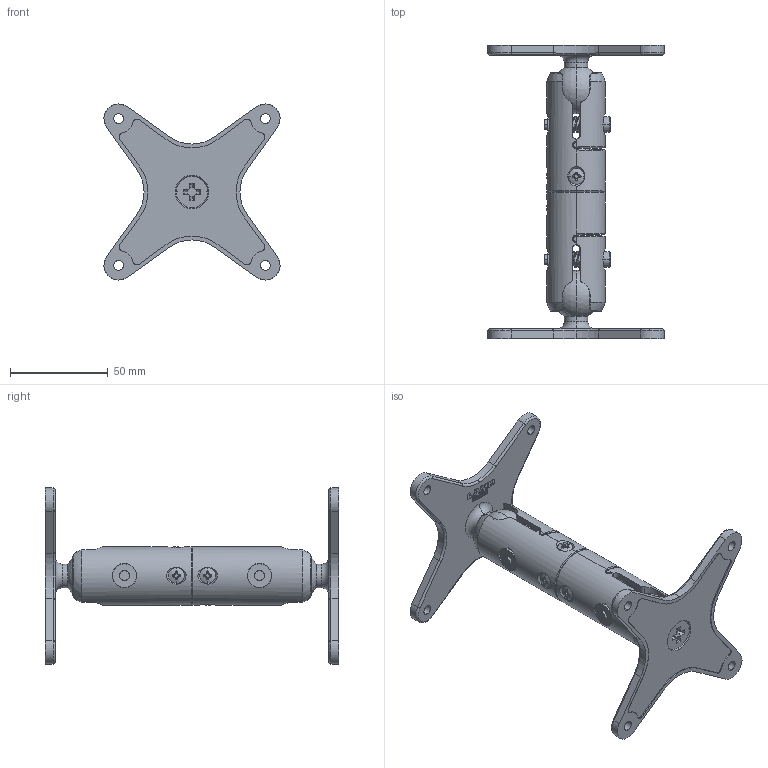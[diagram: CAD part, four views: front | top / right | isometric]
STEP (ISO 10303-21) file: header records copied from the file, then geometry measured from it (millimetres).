
FILE_DESCRIPTION (( 'STEP AP203' ), '1' );
FILE_NAME ('KA-150__0.step', '2013-04-22T22:56:24', ( ' ' ), ( '' ), 'SwSTEP 2.0', 'SolidWorks 2011', '' );
FILE_SCHEMA (( 'CONFIG_CONTROL_DESIGN' ));
Length unit declared in the file: millimetre
Products named in the file (14): KA-150__0; 十字穴付き丸皿小ねじ_M4x8; 十字穴付き皿小ねじ_M8x20; 六角穴付きボルト_M5x30; 平座金_5; SC210-02064_KA-150_連結パイプ; SC210-02066_KA-150_圧縮バネ_取付時; SC210-02070_KA-150_ゴム球; SC210-02063_KA-150_ゴム球（ゴム球）; SC210-02069_KA-150_ナット（ゴム球）; SC210-02072_KA-150_アウトサートナット; SC210-02071_KA-150_クランプ; SC210-02068_KA-150_ホルダー; SC210-02065_KA-150_十字ベース
Assembly tree (25 placements, depth 3):
  KA-150__0
    十字穴付き丸皿小ねじ_M4x8  x4
    SC210-02072_KA-150_アウトサートナット  x2
    SC210-02065_KA-150_十字ベース  x2
    十字穴付き皿小ねじ_M8x20  x2
    SC210-02070_KA-150_ゴム球  x2
      SC210-02063_KA-150_ゴム球（ゴム球）
      SC210-02069_KA-150_ナット（ゴム球）
    SC210-02071_KA-150_クランプ  x2
    六角穴付きボルト_M5x30  x2
    SC210-02068_KA-150_ホルダー  x2
    平座金_5  x2
    SC210-02064_KA-150_連結パイプ
    SC210-02066_KA-150_圧縮バネ_取付時  x2
Bounding box: 89.99 x 150 x 90 mm (x, y, z)
Volume: 105653.5 mm3; surface area: 67504.4 mm2
Topology: 25 solids, 25 shells, 1188 faces, 3056 edges, 1962 vertices
Faces by surface type: plane 538, cylinder 350, bspline 156, torus 72, sphere 40, cone 32
Entity records: 26398 total; most frequent: CARTESIAN_POINT 10844, ORIENTED_EDGE 3008, DIRECTION 2643, EDGE_CURVE 1504, VERTEX_POINT 968, AXIS2_PLACEMENT_3D 926, VECTOR 791, LINE 791
